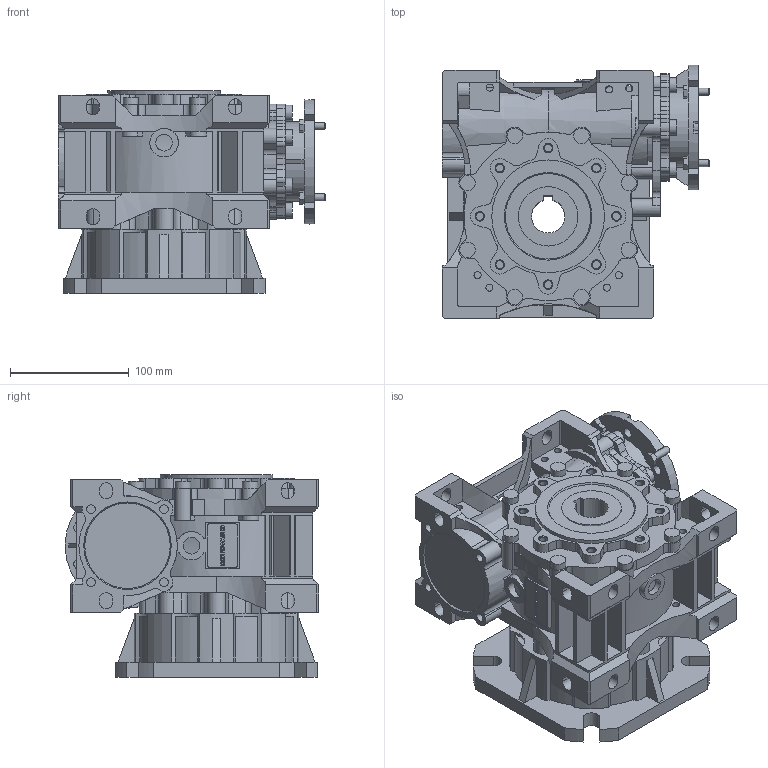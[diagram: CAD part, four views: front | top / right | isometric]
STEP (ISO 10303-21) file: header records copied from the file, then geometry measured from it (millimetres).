
FILE_DESCRIPTION(/* description */ ('STEP AP203'),/* implementation_level */ '2;1');
FILE_NAME(/* name */ 'NMRVP_075_105x14_28_NO_FA_200_S_NO_-_-_-_NO_NO_-_---_---------------',/* time_stamp */ '2025-11-21T01:49:15+01:00',/* author */ ('License CC BY-ND 4.0'),/* organization */ ('CADENAS'),/* preprocessor_version */ 'ST-DEVELOPER v20',/* originating_system */ 'PARTsolutions',/* authorisation */ ' ');
FILE_SCHEMA (('CONFIG_CONTROL_DESIGN'));
Length unit declared in the file: millimetre
Products named in the file (7): NMRVP 075 105x14 28 NO FA 200 S NO - - - NO NO - ---(---------------); W.075.01.M; 075-28 (120); W.075.14.14.M-p; 7571 B14; 75-50; FU 75FA-p
Assembly tree (6 placements, depth 2):
  NMRVP 075 105x14 28 NO FA 200 S NO - - - NO NO - ---(---------------)
    W.075.01.M
    075-28 (120)
    W.075.14.14.M-p
    7571 B14
    75-50
    FU 75FA-p
Bounding box: 224.94 x 213.33 x 171 mm (x, y, z)
Volume: 3052791.4 mm3; surface area: 485658.5 mm2
Topology: 6 solids, 12 shells, 1705 faces, 4630 edges, 3069 vertices
Faces by surface type: plane 946, cylinder 701, cone 56, torus 2
Full cylindrical faces by diameter (mm): 6 x18, 6.647 x16, 7.26 x12, 8.5 x6, 10 x1, 13 x22, 14 x3, 24 x1, 29 x1, 31 x1, 40 x1, 42 x1, 48 x1, 50 x3, 68 x3, 70 x1, 95 x3
Entity records: 53979 total; most frequent: CARTESIAN_POINT 9912, DIRECTION 9389, ORIENTED_EDGE 8986, EDGE_CURVE 4493, AXIS2_PLACEMENT_3D 3356, VERTEX_POINT 3054, LINE 2677, VECTOR 2677
